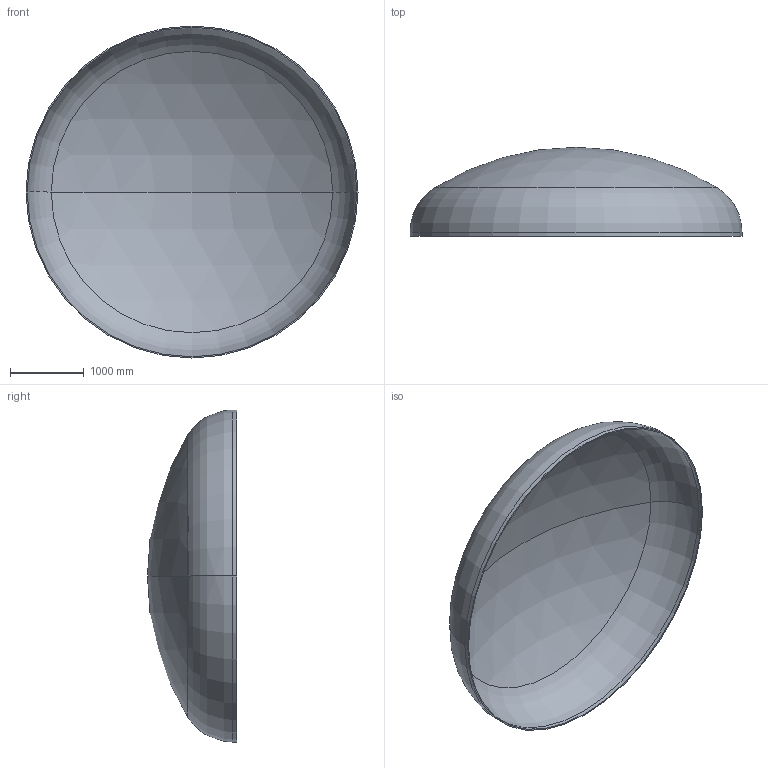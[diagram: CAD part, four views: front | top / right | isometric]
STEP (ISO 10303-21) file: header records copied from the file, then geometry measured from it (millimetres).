
FILE_DESCRIPTION (( 'STEP AP203' ), '1' );
FILE_NAME ('DIN 28013 Korbbogenform_-_Boden DIN 28013 - 4500 x 55 - I - s=16.step', '2016-07-01T23:05:53', ( '' ), ( '' ), 'SwSTEP 2.0', 'SolidWorks 2013', '' );
FILE_SCHEMA (( 'CONFIG_CONTROL_DESIGN' ));
Length unit declared in the file: millimetre
Products named in the file (1): DIN 28013 Korbbogenform_-_Boden DIN 28013 - 4500 x 55 - I - s=16
Bounding box: 4500 x 1207.16 x 4500 mm (x, y, z)
Volume: 363397274.2 mm3; surface area: 45650567.6 mm2
Topology: 1 solids, 1 shells, 13 faces, 24 edges, 14 vertices
Faces by surface type: torus 4, cylinder 4, sphere 4, plane 1
Entity records: 407 total; most frequent: DIRECTION 72, CARTESIAN_POINT 52, ORIENTED_EDGE 48, AXIS2_PLACEMENT_3D 34, EDGE_CURVE 24, CIRCLE 20, VERTEX_POINT 14, EDGE_LOOP 14
